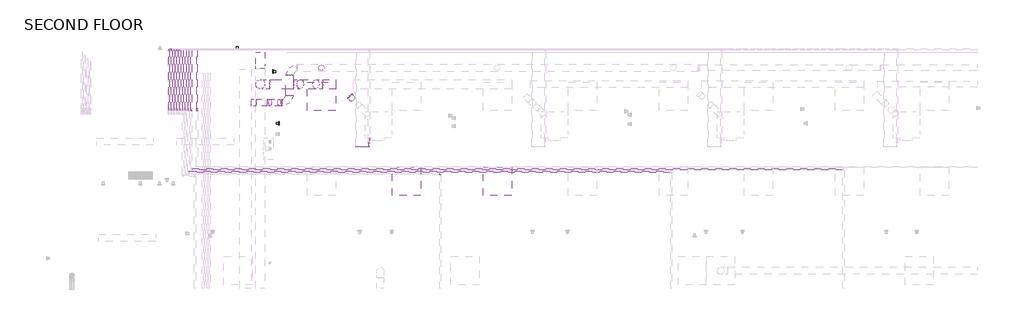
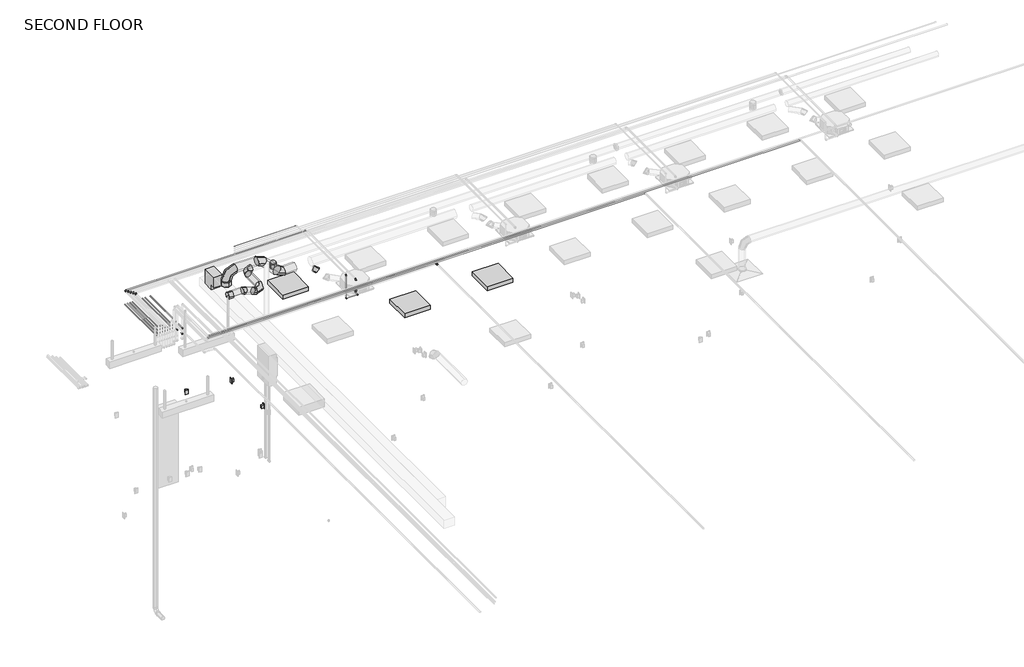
# One storey, part 9 of 12: 20 pipe segments, 14 pipe fittings, 12 duct fittings, 10 duct segments, 3 light fixtures, 2 proxies, 1 electric appliance.
"""IFC4 building model written with IfcOpenShell, lengths in millimetres."""

from ifc_helpers import new_model, si_unit, point, frame, frame_2d, origin, place, context, project, spatial, circle_curve, trimmed, segment, composite_curve, outline, extrude, transform, mapped, element, save
from components import duplex_receptacle_countertop_10251bba, rectangular_elbow_mitered_transition_standard_2c7a3de9, round_elbow_1_d_a253342a, round_elbow_1_d_b37ad80b, round_elbow_1_d_147a1fa0, round_elbow_1_d_ab3aa7ba, round_elbow_1_d_bb13c7cb, round_takeoff_standard_d3b0d0f9, round_takeoff_standard_0d53327c, round_takeoff_standard_bb6ed057, telephone_outlet_data_plain_18c24199, troffer_corner_insert_2x2_3lamp_e67c7f8f, elbow_generic_standard_c06ac706, elbow_generic_standard_a088f956

model = new_model("IFC4")

# Units and contexts
model_context = context("Model", 3, world=origin())
ifc_project = project(units=[si_unit("LENGTHUNIT", "METRE", prefix="MILLI")], contexts=[model_context])

# Site, building, storey
site = spatial("IfcSite", under=ifc_project)
building = spatial("IfcBuilding", under=site)
storey = spatial("IfcBuildingStorey", under=building, Name="SECOND FLOOR", Elevation=34544.0)

# Proxies
placement = place(None, origin())
duplex_receptacle_countertop_shape = duplex_receptacle_countertop_10251bba(model_context)
element("IfcBuildingElementProxy", 1, Name="Duplex Receptacle : Standard", ObjectType="Duplex Receptacle : Standard", at=placement, inside=storey, context=model_context, shape_type="MappedRepresentation", body=[
    mapped(duplex_receptacle_countertop_shape, transform((-6527.0453573, 7674.9695005, 34696.4), x_axis=(1.0, 0.0, 0.0), y_axis=(0.0, 0.0, 1.0), z_axis=(0.0, -1.0, 0.0))),
])
element("IfcBuildingElementProxy", 2, Name="Duplex Receptacle : Standard", ObjectType="Duplex Receptacle : Standard", at=placement, inside=storey, context=model_context, shape_type="MappedRepresentation", body=[
    mapped(duplex_receptacle_countertop_shape, transform((-5755.3204607, 7190.1860032, 35001.2), x_axis=(0.0, -1.0, 0.0), y_axis=(0.0, 0.0, 1.0), z_axis=(-1.0, 0.0, 0.0))),
])

# Duct fittings
rectangular_elbow_mitered_transition_standard_shape = rectangular_elbow_mitered_transition_standard_2c7a3de9(model_context)
element("IfcDuctFitting", 3, ObjectType="Rectangular Elbow - Mitered - Transition : Standard", at=placement, inside=storey, context=model_context, shape_type="MappedRepresentation", body=[
    mapped(rectangular_elbow_mitered_transition_standard_shape, transform((-6029.8204015, 7478.1195005, 37541.2), x_axis=(0.0, 1.0, 0.0), y_axis=(0.0, 0.0, -1.0), z_axis=(-1.0, 0.0, 0.0))),
])
round_elbow_1_d_shape = round_elbow_1_d_a253342a(model_context)
element("IfcDuctFitting", 4, ObjectType="Round Elbow : 1 D", at=placement, inside=storey, context=model_context, shape_type="MappedRepresentation", body=[
    mapped(round_elbow_1_d_shape, transform((-6029.8204015, 6917.6422212, 37998.4), x_axis=(0.0, 0.0, 1.0), y_axis=(1.0, 0.0, 0.0), z_axis=(0.0, 1.0, 0.0))),
])
round_elbow_1_d_2_shape = round_elbow_1_d_b37ad80b(model_context)
element("IfcDuctFitting", 5, ObjectType="Round Elbow : 1 D", at=placement, inside=storey, context=model_context, shape_type="MappedRepresentation", body=[
    mapped(round_elbow_1_d_2_shape, transform((-5401.3079607, 7268.5695005, 37592.0), x_axis=(-1.0, 0.0, 0.0), y_axis=(0.0, -1.0, 0.0), z_axis=(0.0, 0.0, 1.0))),
])
element("IfcDuctFitting", 6, ObjectType="Round Elbow : 1 D", at=placement, inside=storey, context=model_context, shape_type="MappedRepresentation", body=[
    mapped(round_elbow_1_d_2_shape, transform((-5401.3079607, 6523.5557505, 37592.0), x_axis=(1.0, 0.0, 0.0), y_axis=(0.0, 1.0, 0.0), z_axis=(0.0, 0.0, 1.0))),
])
round_elbow_1_d_3_shape = round_elbow_1_d_147a1fa0(model_context)
element("IfcDuctFitting", 7, ObjectType="Round Elbow : 1 D", at=placement, inside=storey, context=model_context, shape_type="MappedRepresentation", body=[
    mapped(round_elbow_1_d_3_shape, transform((-5844.3927822, 6523.5557505, 37693.6), x_axis=(1.0, 0.0, 0.0), y_axis=(0.0, 0.0, -1.0), z_axis=(0.0, 1.0, 0.0))),
])
element("IfcDuctFitting", 8, ObjectType="Round Elbow : 1 D", at=placement, inside=storey, context=model_context, shape_type="MappedRepresentation", body=[
    mapped(round_elbow_1_d_3_shape, transform((-5599.1089295, 6523.5557505, 37592.0), x_axis=(0.9238793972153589, 0.0, -0.3826837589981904), y_axis=(0.3826837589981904, 0.0, 0.9238793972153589), z_axis=(0.0, -1.0, 0.0))),
])
round_elbow_1_d_4_shape = round_elbow_1_d_ab3aa7ba(model_context)
element("IfcDuctFitting", 9, ObjectType="Round Elbow : 1 D", at=placement, inside=storey, context=model_context, shape_type="MappedRepresentation", body=[
    mapped(round_elbow_1_d_4_shape, transform((-4771.0346937, 6917.6422212, 37541.2), x_axis=(0.7071067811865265, 0.0, -0.7071067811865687), y_axis=(0.7071067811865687, 0.0, 0.7071067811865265), z_axis=(0.0, -1.0, 0.0))),
])
element("IfcDuctFitting", 10, ObjectType="Round Elbow : 1 D", at=placement, inside=storey, context=model_context, shape_type="MappedRepresentation", body=[
    mapped(round_elbow_1_d_4_shape, transform((-5228.2346937, 6917.6422212, 37998.4), x_axis=(-0.707106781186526, 0.0, 0.707106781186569), y_axis=(-0.707106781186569, 0.0, -0.707106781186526), z_axis=(0.0, -1.0, 0.0))),
])
round_elbow_1_d_5_shape = round_elbow_1_d_bb13c7cb(model_context)
element("IfcDuctFitting", 11, ObjectType="Round Elbow : 1 D", at=placement, inside=storey, context=model_context, shape_type="MappedRepresentation", body=[
    mapped(round_elbow_1_d_5_shape, transform((-4074.9010189, 6626.3750587, 37541.2), x_axis=(0.7071067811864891, -0.707106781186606, 0.0), y_axis=(0.0, 0.0, -1.0), z_axis=(0.707106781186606, 0.7071067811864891, 0.0))),
])
round_takeoff_standard_shape = round_takeoff_standard_d3b0d0f9(model_context)
element("IfcDuctFitting", 12, ObjectType="Round Takeoff : Standard", at=placement, inside=storey, context=model_context, shape_type="MappedRepresentation", body=[
    mapped(round_takeoff_standard_shape, transform((-6029.8204015, 6917.6422212, 37668.2), x_axis=(0.0, 0.0, 1.0), y_axis=(0.0, 1.0, 0.0), z_axis=(-1.0, 0.0, 0.0))),
])
round_takeoff_standard_2_shape = round_takeoff_standard_0d53327c(model_context)
element("IfcDuctFitting", 13, ObjectType="Round Takeoff : Standard", at=placement, inside=storey, context=model_context, shape_type="MappedRepresentation", body=[
    mapped(round_takeoff_standard_2_shape, transform((-4717.0954607, 7268.5695005, 37515.8), x_axis=(0.0, 0.0, -1.0), y_axis=(-1.0, 0.0, 0.0), z_axis=(0.0, 1.0, 0.0))),
])
round_takeoff_standard_3_shape = round_takeoff_standard_bb6ed057(model_context)
element("IfcDuctFitting", 14, ObjectType="Round Takeoff : Standard", at=placement, inside=storey, context=model_context, shape_type="MappedRepresentation", body=[
    mapped(round_takeoff_standard_3_shape, transform((-6220.3126806, 6523.5557505, 37693.6), x_axis=(1.0, 0.0, 0.0), y_axis=(0.0, -1.0, 0.0), z_axis=(0.0, 0.0, -1.0))),
])

# Duct segments
element("IfcDuctSegment", 15, ObjectType="Taps / Short Radius", at=placement, inside=storey, context=model_context, shape_type="SweptSolid", body=[
    extrude(outline(composite_curve([segment(trimmed(circle_curve(frame_2d((37592.0, -5401.3079607)), 76.2), [point((37592.0, -5477.5079607))], [point((37515.8, -5401.3079607))], False, "CARTESIAN"), True, "CONTINUOUS"), segment(trimmed(circle_curve(frame_2d((37592.0, -5401.3079607)), 76.2), [point((37515.8, -5401.3079607))], [point((37592.0, -5325.1079607))], False, "CARTESIAN"), True, "CONTINUOUS"), segment(trimmed(circle_curve(frame_2d((37592.0, -5401.3079607)), 76.2), [point((37592.0, -5325.1079607))], [point((37668.2, -5401.3079607))], False, "CARTESIAN"), True, "CONTINUOUS"), segment(trimmed(circle_curve(frame_2d((37592.0, -5401.3079607)), 76.2), [point((37668.2, -5401.3079607))], [point((37592.0, -5477.5079607))], False, "CARTESIAN"), True, "CONTINUOUS")], self_intersect=False)), frame((0.0, 6675.9557505, 0.0), z_axis=(0.0, 1.0, 0.0), x_axis=(0.0, 0.0, 1.0)), (0.0, 0.0, 1.0), 440.21375),
])
element("IfcDuctSegment", 16, ObjectType="Taps / Short Radius", at=placement, inside=storey, context=model_context, shape_type="SweptSolid", body=[
    extrude(outline(composite_curve([segment(trimmed(circle_curve(frame_2d((0.0, 63.5)), 63.5), [point((-63.5, 63.5))], [point((0.0, 127.0))], False, "CARTESIAN"), True, "CONTINUOUS"), segment(trimmed(circle_curve(frame_2d((0.0, 63.5)), 63.5), [point((0.0, 127.0))], [point((63.5, 63.5))], False, "CARTESIAN"), True, "CONTINUOUS"), segment(trimmed(circle_curve(frame_2d((0.0, 63.5)), 63.5), [point((63.5, 63.5))], [point((0.0, 0.0))], False, "CARTESIAN"), True, "CONTINUOUS"), segment(trimmed(circle_curve(frame_2d((0.0, 63.5)), 63.5), [point((0.0, 0.0))], [point((-63.5, 63.5))], False, "CARTESIAN"), True, "CONTINUOUS")], self_intersect=False)), frame((-4717.0954607, 7205.0695005, 37388.8), z_axis=(0.0, -3.069544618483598e-12, 1.0), x_axis=(1.0, 0.0, 0.0)), (0.0, 0.0, 1.0), 25.4),
])
element("IfcDuctSegment", 17, ObjectType="Taps / Short Radius", at=placement, inside=storey, context=model_context, shape_type="SweptSolid", body=[
    extrude(outline(composite_curve([segment(trimmed(circle_curve(frame_2d((6523.5557505, 37592.0)), 76.2), [point((6447.3557505, 37592.0))], [point((6523.5557505, 37668.2))], False, "CARTESIAN"), True, "CONTINUOUS"), segment(trimmed(circle_curve(frame_2d((6523.5557505, 37592.0)), 76.2), [point((6523.5557505, 37668.2))], [point((6599.7557505, 37592.0))], False, "CARTESIAN"), True, "CONTINUOUS"), segment(trimmed(circle_curve(frame_2d((6523.5557505, 37592.0)), 76.2), [point((6599.7557505, 37592.0))], [point((6523.5557505, 37515.8))], False, "CARTESIAN"), True, "CONTINUOUS"), segment(trimmed(circle_curve(frame_2d((6523.5557505, 37592.0)), 76.2), [point((6523.5557505, 37515.8))], [point((6447.3557505, 37592.0))], False, "CARTESIAN"), True, "CONTINUOUS")], self_intersect=False)), frame((-5568.7946567, 0.0, 0.0), z_axis=(1.0, 0.0, 0.0), x_axis=(0.0, 1.0, 0.0)), (0.0, 0.0, 1.0), 15.086696),
])
element("IfcDuctSegment", 18, ObjectType="Taps / Short Radius", at=placement, inside=storey, context=model_context, shape_type="SweptSolid", body=[
    extrude(outline(composite_curve([segment(trimmed(circle_curve(frame_2d((6523.5557505, 37693.6)), 76.2), [point((6447.3557505, 37693.6))], [point((6523.5557505, 37769.8))], False, "CARTESIAN"), True, "CONTINUOUS"), segment(trimmed(circle_curve(frame_2d((6523.5557505, 37693.6)), 76.2), [point((6523.5557505, 37769.8))], [point((6599.7557505, 37693.6))], False, "CARTESIAN"), True, "CONTINUOUS"), segment(trimmed(circle_curve(frame_2d((6523.5557505, 37693.6)), 76.2), [point((6599.7557505, 37693.6))], [point((6523.5557505, 37617.4))], False, "CARTESIAN"), True, "CONTINUOUS"), segment(trimmed(circle_curve(frame_2d((6523.5557505, 37693.6)), 76.2), [point((6523.5557505, 37617.4))], [point((6447.3557505, 37693.6))], False, "CARTESIAN"), True, "CONTINUOUS")], self_intersect=False)), frame((-6118.7126806, 0.0, 0.0), z_axis=(1.0, 0.0, 0.0), x_axis=(0.0, 1.0, 0.0)), (0.0, 0.0, 1.0), 244.0056256),
])
element("IfcDuctSegment", 19, ObjectType="Taps / Short Radius", at=placement, inside=storey, context=model_context, shape_type="SweptSolid", body=[
    extrude(outline(composite_curve([segment(trimmed(circle_curve(frame_2d((0.0, -76.2)), 76.2), [point((0.0, -152.4))], [point((-76.2, -76.2))], False, "CARTESIAN"), True, "CONTINUOUS"), segment(trimmed(circle_curve(frame_2d((0.0, -76.2)), 76.2), [point((-76.2, -76.2))], [point((0.0, 0.0))], False, "CARTESIAN"), True, "CONTINUOUS"), segment(trimmed(circle_curve(frame_2d((0.0, -76.2)), 76.2), [point((0.0, 0.0))], [point((76.1999999, -76.2))], False, "CARTESIAN"), True, "CONTINUOUS"), segment(trimmed(circle_curve(frame_2d((0.0, -76.2)), 76.2), [point((76.1999999, -76.2))], [point((0.0, -152.4))], False, "CARTESIAN"), True, "CONTINUOUS")], self_intersect=False)), frame((-5627.1156616, 6599.7557505, 37603.6007799), z_axis=(-0.9238793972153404, 0.0, 0.3826837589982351), x_axis=(0.3826837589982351, 0.0, 0.9238793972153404)), (0.0, 0.0, 1.0), 204.8648223),
])
element("IfcDuctSegment", 20, ObjectType="Taps / Short Radius", at=placement, inside=storey, context=model_context, shape_type="SweptSolid", body=[
    extrude(outline(composite_curve([segment(trimmed(circle_curve(frame_2d((6917.6422212, 37541.2)), 101.6), [point((6816.0422212, 37541.2))], [point((6917.6422212, 37642.8))], False, "CARTESIAN"), True, "CONTINUOUS"), segment(trimmed(circle_curve(frame_2d((6917.6422212, 37541.2)), 101.6), [point((6917.6422212, 37642.8))], [point((7019.2422212, 37541.2))], False, "CARTESIAN"), True, "CONTINUOUS"), segment(trimmed(circle_curve(frame_2d((6917.6422212, 37541.2)), 101.6), [point((7019.2422212, 37541.2))], [point((6917.6422212, 37439.6))], False, "CARTESIAN"), True, "CONTINUOUS"), segment(trimmed(circle_curve(frame_2d((6917.6422212, 37541.2)), 101.6), [point((6917.6422212, 37439.6))], [point((6816.0422212, 37541.2))], False, "CARTESIAN"), True, "CONTINUOUS")], self_intersect=False)), frame((-4686.8664978, 0.0, 0.0), z_axis=(1.0, 0.0, 0.0), x_axis=(0.0, 1.0, 0.0)), (0.0, 0.0, 1.0), 275.7970359),
])
element("IfcDuctSegment", 21, ObjectType="Taps / Short Radius", at=placement, inside=storey, context=model_context, shape_type="SweptSolid", body=[
    extrude(outline(composite_curve([segment(trimmed(circle_curve(frame_2d((0.0, -101.6)), 101.6), [point((0.0, 0.0))], [point((101.6, -101.6))], False, "CARTESIAN"), True, "CONTINUOUS"), segment(trimmed(circle_curve(frame_2d((0.0, -101.6)), 101.6), [point((101.6, -101.6))], [point((0.0, -203.2))], False, "CARTESIAN"), True, "CONTINUOUS"), segment(trimmed(circle_curve(frame_2d((0.0, -101.6)), 101.6), [point((0.0, -203.2))], [point((-101.6, -101.6))], False, "CARTESIAN"), True, "CONTINUOUS"), segment(trimmed(circle_curve(frame_2d((0.0, -101.6)), 101.6), [point((-101.6, -101.6))], [point((0.0, 0.0))], False, "CARTESIAN"), True, "CONTINUOUS")], self_intersect=False)), frame((-4830.5505958, 7019.2422212, 37600.7159021), z_axis=(-0.7071067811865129, 0.0, 0.7071067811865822), x_axis=(0.7071067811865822, 0.0, 0.7071067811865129)), (0.0, 0.0, 1.0), 478.242049),
])
element("IfcDuctSegment", 22, ObjectType="Taps / Short Radius", at=placement, inside=storey, context=model_context, shape_type="SweptSolid", body=[
    extrude(outline(composite_curve([segment(trimmed(circle_curve(frame_2d((0.0, -63.5)), 63.5), [point((-63.5, -63.5))], [point((0.0, 0.0))], False, "CARTESIAN"), True, "CONTINUOUS"), segment(trimmed(circle_curve(frame_2d((0.0, -63.5)), 63.5), [point((0.0, 0.0))], [point((63.5, -63.5))], False, "CARTESIAN"), True, "CONTINUOUS"), segment(trimmed(circle_curve(frame_2d((0.0, -63.5)), 63.5), [point((63.5, -63.5))], [point((0.0, -127.0))], False, "CARTESIAN"), True, "CONTINUOUS"), segment(trimmed(circle_curve(frame_2d((0.0, -63.5)), 63.5), [point((0.0, -127.0))], [point((-63.5, -63.5))], False, "CARTESIAN"), True, "CONTINUOUS")], self_intersect=False)), frame((-4103.4147276, 6654.8887674, 37477.7), z_axis=(-0.7071067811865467, 0.7071067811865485, 0.0), x_axis=(0.7071067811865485, 0.7071067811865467, 0.0)), (0.0, 0.0, 1.0), 20.7213021),
])
element("IfcDuctSegment", 23, ObjectType="Taps / Short Radius", at=placement, inside=storey, context=model_context, shape_type="SweptSolid", body=[
    extrude(outline(composite_curve([segment(trimmed(circle_curve(frame_2d((6917.6422212, 37998.4)), 101.6), [point((6816.0422212, 37998.4))], [point((6917.6422212, 38100.0))], False, "CARTESIAN"), True, "CONTINUOUS"), segment(trimmed(circle_curve(frame_2d((6917.6422212, 37998.4)), 101.6), [point((6917.6422212, 38100.0))], [point((7019.2422212, 37998.4))], False, "CARTESIAN"), True, "CONTINUOUS"), segment(trimmed(circle_curve(frame_2d((6917.6422212, 37998.4)), 101.6), [point((7019.2422212, 37998.4))], [point((6917.6422212, 37896.8))], False, "CARTESIAN"), True, "CONTINUOUS"), segment(trimmed(circle_curve(frame_2d((6917.6422212, 37998.4)), 101.6), [point((6917.6422212, 37896.8))], [point((6816.0422212, 37998.4))], False, "CARTESIAN"), True, "CONTINUOUS")], self_intersect=False)), frame((-5826.6204015, 0.0, 0.0), z_axis=(1.0, 0.0, 0.0), x_axis=(0.0, 1.0, 0.0)), (0.0, 0.0, 1.0), 514.2175119),
])
element("IfcDuctSegment", 24, ObjectType="Taps / Short Radius", at=placement, inside=storey, context=model_context, shape_type="SweptSolid", body=[
    extrude(outline(composite_curve([segment(trimmed(circle_curve(frame_2d((0.0, 101.6)), 101.6), [point((0.0, 0.0))], [point((-101.6, 101.6))], False, "CARTESIAN"), True, "CONTINUOUS"), segment(trimmed(circle_curve(frame_2d((0.0, 101.6)), 101.6), [point((-101.6, 101.6))], [point((0.0, 203.2))], False, "CARTESIAN"), True, "CONTINUOUS"), segment(trimmed(circle_curve(frame_2d((0.0, 101.6)), 101.6), [point((0.0, 203.2))], [point((101.6, 101.6))], False, "CARTESIAN"), True, "CONTINUOUS"), segment(trimmed(circle_curve(frame_2d((0.0, 101.6)), 101.6), [point((101.6, 101.6))], [point((0.0, 0.0))], False, "CARTESIAN"), True, "CONTINUOUS")], self_intersect=False)), frame((-6029.8204015, 6816.0422212, 37769.8), z_axis=(0.0, -1.0658141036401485e-12, 1.0), x_axis=(1.0, 0.0, 0.0)), (0.0, 0.0, 1.0), 25.4),
])

# Electric appliance
telephone_outlet_data_plain_shape = telephone_outlet_data_plain_18c24199(model_context)
element("IfcElectricAppliance", 25, ObjectType="Telephone Outlet - Data : Plain", at=placement, inside=storey, context=model_context, shape_type="MappedRepresentation", body=[
    mapped(telephone_outlet_data_plain_shape, transform((-5631.4954607, 6954.0621081, 34143.95), x_axis=(0.0, 1.0, 0.0), y_axis=(0.0, 0.0, 1.0), z_axis=(1.0, 0.0, 0.0))),
])

# Light fixtures
troffer_corner_insert_2x2_3lamp_shape = troffer_corner_insert_2x2_3lamp_e67c7f8f(model_context)
element("IfcLightFixture", 26, ObjectType="Troffer Corner Insert : 2x2 3Lamp", at=placement, inside=storey, context=model_context, shape_type="MappedRepresentation", body=[
    mapped(troffer_corner_insert_2x2_3lamp_shape, transform((-4717.0954607, 6658.9695005, 34848.8), x_axis=(1.0, 0.0, 0.0), y_axis=(0.0, 1.0, 0.0), z_axis=(0.0, 0.0, 1.0))),
])
element("IfcLightFixture", 27, ObjectType="Troffer Corner Insert : 2x2 3Lamp", at=placement, inside=storey, context=model_context, shape_type="MappedRepresentation", body=[
    mapped(troffer_corner_insert_2x2_3lamp_shape, transform((-2888.2954607, 4830.1695005, 34848.8), x_axis=(1.0, 0.0, 0.0), y_axis=(0.0, 1.0, 0.0), z_axis=(0.0, 0.0, 1.0))),
])
element("IfcLightFixture", 28, ObjectType="Troffer Corner Insert : 2x2 3Lamp", at=placement, inside=storey, context=model_context, shape_type="MappedRepresentation", body=[
    mapped(troffer_corner_insert_2x2_3lamp_shape, transform((-935.6704607, 4830.1695005, 34848.8), x_axis=(1.0, 0.0, 0.0), y_axis=(0.0, 1.0, 0.0), z_axis=(0.0, 0.0, 1.0))),
])

# Pipe fittings
elbow_generic_standard_shape = elbow_generic_standard_c06ac706(model_context)
element("IfcPipeFitting", 29, ObjectType="Elbow - Generic : Standard", at=placement, inside=storey, context=model_context, shape_type="MappedRepresentation", body=[
    mapped(elbow_generic_standard_shape, transform((-7991.0790543, 7663.8570005, 37744.4), x_axis=(-1.0, 0.0, 0.0), y_axis=(0.0, -1.0, 0.0), z_axis=(0.0, 0.0, 1.0))),
])
element("IfcPipeFitting", 30, ObjectType="Elbow - Generic : Standard", at=placement, inside=storey, context=model_context, shape_type="MappedRepresentation", body=[
    mapped(elbow_generic_standard_shape, transform((-3690.7767107, 5656.267336, 37744.4), x_axis=(0.0, 0.0, 1.0), y_axis=(0.0, 1.0, 0.0), z_axis=(-1.0, 0.0, 0.0))),
])
element("IfcPipeFitting", 31, ObjectType="Elbow - Generic : Standard", at=placement, inside=storey, context=model_context, shape_type="MappedRepresentation", body=[
    mapped(elbow_generic_standard_shape, transform((-7931.0790543, 7663.8570005, 37706.3), x_axis=(-1.0, 0.0, 0.0), y_axis=(0.0, -1.0, 0.0), z_axis=(0.0, 0.0, 1.0))),
])
element("IfcPipeFitting", 32, ObjectType="Elbow - Generic : Standard", at=placement, inside=storey, context=model_context, shape_type="MappedRepresentation", body=[
    mapped(elbow_generic_standard_shape, transform((-7871.0790543, 7663.8570005, 37668.2), x_axis=(-1.0, 0.0, 0.0), y_axis=(0.0, -1.0, 0.0), z_axis=(0.0, 0.0, 1.0))),
])
element("IfcPipeFitting", 33, ObjectType="Elbow - Generic : Standard", at=placement, inside=storey, context=model_context, shape_type="MappedRepresentation", body=[
    mapped(elbow_generic_standard_shape, transform((-7811.0790543, 7663.8570005, 37630.1), x_axis=(-1.0, 0.0, 0.0), y_axis=(0.0, -1.0, 0.0), z_axis=(0.0, 0.0, 1.0))),
])
element("IfcPipeFitting", 34, ObjectType="Elbow - Generic : Standard", at=placement, inside=storey, context=model_context, shape_type="MappedRepresentation", body=[
    mapped(elbow_generic_standard_shape, transform((-7751.0790543, 7663.8570005, 37592.0), x_axis=(-1.0, 0.0, 0.0), y_axis=(0.0, -1.0, 0.0), z_axis=(0.0, 0.0, 1.0))),
])
element("IfcPipeFitting", 35, ObjectType="Elbow - Generic : Standard", at=placement, inside=storey, context=model_context, shape_type="MappedRepresentation", body=[
    mapped(elbow_generic_standard_shape, transform((-2162.9667107, 4983.2701311, 37998.4), x_axis=(0.0, 1.0, 0.0), y_axis=(-1.0, 0.0, 0.0), z_axis=(0.0, 0.0, 1.0))),
])
element("IfcPipeFitting", 36, ObjectType="Elbow - Generic : Standard", at=placement, inside=storey, context=model_context, shape_type="MappedRepresentation", body=[
    mapped(elbow_generic_standard_shape, transform((-3690.7767107, 5656.267336, 37437.2187602), x_axis=(0.0, 0.0, -1.0), y_axis=(0.0, 1.0, 0.0), z_axis=(1.0, 0.0, 0.0))),
])
elbow_generic_standard_2_shape = elbow_generic_standard_a088f956(model_context)
element("IfcPipeFitting", 37, ObjectType="Elbow - Generic : Standard", at=placement, inside=storey, context=model_context, shape_type="MappedRepresentation", body=[
    mapped(elbow_generic_standard_2_shape, transform((-7511.0790543, 6350.1076209, 37398.3125), x_axis=(0.0, 0.0, 1.0), y_axis=(0.0, 1.0, 0.0), z_axis=(-1.0, 0.0, 0.0))),
])
element("IfcPipeFitting", 38, ObjectType="Elbow - Generic : Standard", at=placement, inside=storey, context=model_context, shape_type="MappedRepresentation", body=[
    mapped(elbow_generic_standard_2_shape, transform((-7391.0790543, 6350.1076209, 37245.9125), x_axis=(0.0, -1.0, 0.0), y_axis=(0.0, 0.0, 1.0), z_axis=(-1.0, 0.0, 0.0))),
])
element("IfcPipeFitting", 39, ObjectType="Elbow - Generic : Standard", at=placement, inside=storey, context=model_context, shape_type="MappedRepresentation", body=[
    mapped(elbow_generic_standard_2_shape, transform((-7391.0790543, 6350.1076209, 37398.3125), x_axis=(0.0, 0.0, 1.0), y_axis=(0.0, 1.0, 0.0), z_axis=(-1.0, 0.0, 0.0))),
])
element("IfcPipeFitting", 40, ObjectType="Elbow - Generic : Standard", at=placement, inside=storey, context=model_context, shape_type="MappedRepresentation", body=[
    mapped(elbow_generic_standard_2_shape, transform((-3693.9517107, 5568.3570005, 37407.85), x_axis=(1.0, 0.0, 0.0), y_axis=(0.0, 0.9999999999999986, 5.375459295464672e-08), z_axis=(0.0, -5.375459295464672e-08, 0.9999999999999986))),
])
element("IfcPipeFitting", 41, ObjectType="Elbow - Generic : Standard", at=placement, inside=storey, context=model_context, shape_type="MappedRepresentation", body=[
    mapped(elbow_generic_standard_2_shape, transform((-3973.3517107, 5568.3570005, 37407.85), x_axis=(-1.0, 0.0, 0.0), y_axis=(0.0, 0.0, 1.0), z_axis=(0.0, 1.0, 0.0))),
])
element("IfcPipeFitting", 42, ObjectType="Elbow - Generic : Standard", at=placement, inside=storey, context=model_context, shape_type="MappedRepresentation", body=[
    mapped(elbow_generic_standard_2_shape, transform((-3973.3517107, 5568.3570005, 37998.4), x_axis=(0.0, 0.0, 1.0), y_axis=(0.0, 1.0, 0.0), z_axis=(-1.0, 0.0, 0.0))),
])

# Pipe segments
element("IfcPipeSegment", 43, ObjectType="Copper Tubing", at=placement, inside=storey, context=model_context, shape_type="SweptSolid", body=[
    extrude(outline(composite_curve([segment(trimmed(circle_curve(frame_2d((7663.8570005, 37744.4)), 14.2875), [point((7649.5695005, 37744.4))], [point((7663.8570005, 37758.6875))], False, "CARTESIAN"), True, "CONTINUOUS"), segment(trimmed(circle_curve(frame_2d((7663.8570005, 37744.4)), 14.2875), [point((7663.8570005, 37758.6875))], [point((7678.1445005, 37744.4))], False, "CARTESIAN"), True, "CONTINUOUS"), segment(trimmed(circle_curve(frame_2d((7663.8570005, 37744.4)), 14.2875), [point((7678.1445005, 37744.4))], [point((7663.8570005, 37730.1125))], False, "CARTESIAN"), True, "CONTINUOUS"), segment(trimmed(circle_curve(frame_2d((7663.8570005, 37744.4)), 14.2875), [point((7663.8570005, 37730.1125))], [point((7649.5695005, 37744.4))], False, "CARTESIAN"), True, "CONTINUOUS")], self_intersect=False)), frame((-7970.4415543, 0.0, 0.0), z_axis=(1.0, 0.0, 0.0), x_axis=(0.0, 1.0, 0.0)), (0.0, 0.0, 1.0), 4259.0273436),
])
element("IfcPipeSegment", 44, ObjectType="Copper Tubing", at=placement, inside=storey, context=model_context, shape_type="SweptSolid", body=[
    extrude(outline(composite_curve([segment(trimmed(circle_curve(frame_2d((5034.0701311, 37998.4)), 14.2875), [point((5019.7826311, 37998.4))], [point((5034.0701311, 38012.6875))], False, "CARTESIAN"), True, "CONTINUOUS"), segment(trimmed(circle_curve(frame_2d((5034.0701311, 37998.4)), 14.2875), [point((5034.0701311, 38012.6875))], [point((5048.3576311, 37998.4))], False, "CARTESIAN"), True, "CONTINUOUS"), segment(trimmed(circle_curve(frame_2d((5034.0701311, 37998.4)), 14.2875), [point((5048.3576311, 37998.4))], [point((5034.0701311, 37984.1125))], False, "CARTESIAN"), True, "CONTINUOUS"), segment(trimmed(circle_curve(frame_2d((5034.0701311, 37998.4)), 14.2875), [point((5034.0701311, 37984.1125))], [point((5019.7826311, 37998.4))], False, "CARTESIAN"), True, "CONTINUOUS")], self_intersect=False)), frame((-7550.4415543, 0.0, 0.0), z_axis=(1.0, 0.0, 0.0), x_axis=(0.0, 1.0, 0.0)), (0.0, 0.0, 1.0), 10327.4573436),
])
element("IfcPipeSegment", 45, ObjectType="Copper Tubing", at=placement, inside=storey, context=model_context, shape_type="SweptSolid", body=[
    extrude(outline(composite_curve([segment(trimmed(circle_curve(frame_2d((5084.8701311, 37998.4)), 14.2875), [point((5070.5826311, 37998.4))], [point((5084.8701311, 38012.6875))], False, "CARTESIAN"), True, "CONTINUOUS"), segment(trimmed(circle_curve(frame_2d((5084.8701311, 37998.4)), 14.2875), [point((5084.8701311, 38012.6875))], [point((5099.1576311, 37998.4))], False, "CARTESIAN"), True, "CONTINUOUS"), segment(trimmed(circle_curve(frame_2d((5084.8701311, 37998.4)), 14.2875), [point((5099.1576311, 37998.4))], [point((5084.8701311, 37984.1125))], False, "CARTESIAN"), True, "CONTINUOUS"), segment(trimmed(circle_curve(frame_2d((5084.8701311, 37998.4)), 14.2875), [point((5084.8701311, 37984.1125))], [point((5070.5826311, 37998.4))], False, "CARTESIAN"), True, "CONTINUOUS")], self_intersect=False)), frame((-7490.4415543, 0.0, 0.0), z_axis=(1.0, 0.0, 0.0), x_axis=(0.0, 1.0, 0.0)), (0.0, 0.0, 1.0), 13970.3010936),
])
element("IfcPipeSegment", 46, ObjectType="Copper Tubing", at=placement, inside=storey, context=model_context, shape_type="SweptSolid", body=[
    extrude(outline(composite_curve([segment(trimmed(circle_curve(frame_2d((37398.3125, -7991.0790543)), 7.9375), [point((37398.3125, -7983.1415543))], [point((37406.25, -7991.0790543))], False, "CARTESIAN"), True, "CONTINUOUS"), segment(trimmed(circle_curve(frame_2d((37398.3125, -7991.0790543)), 7.9375), [point((37406.25, -7991.0790543))], [point((37398.3125, -7999.0165543))], False, "CARTESIAN"), True, "CONTINUOUS"), segment(trimmed(circle_curve(frame_2d((37398.3125, -7991.0790543)), 7.9375), [point((37398.3125, -7999.0165543))], [point((37390.375, -7991.0790543))], False, "CARTESIAN"), True, "CONTINUOUS"), segment(trimmed(circle_curve(frame_2d((37398.3125, -7991.0790543)), 7.9375), [point((37390.375, -7991.0790543))], [point((37398.3125, -7983.1415543))], False, "CARTESIAN"), True, "CONTINUOUS")], self_intersect=False)), frame((0.0, 6364.3951209, 0.0), z_axis=(0.0, 1.0, 0.0), x_axis=(0.0, 0.0, 1.0)), (0.0, 0.0, 1.0), 1306.5125),
])
element("IfcPipeSegment", 47, ObjectType="Copper Tubing", at=placement, inside=storey, context=model_context, shape_type="SweptSolid", body=[
    extrude(outline(composite_curve([segment(trimmed(circle_curve(frame_2d((37398.3125, -7931.0790543)), 7.9375), [point((37398.3125, -7923.1415543))], [point((37406.25, -7931.0790543))], False, "CARTESIAN"), True, "CONTINUOUS"), segment(trimmed(circle_curve(frame_2d((37398.3125, -7931.0790543)), 7.9375), [point((37406.25, -7931.0790543))], [point((37398.3125, -7939.0165543))], False, "CARTESIAN"), True, "CONTINUOUS"), segment(trimmed(circle_curve(frame_2d((37398.3125, -7931.0790543)), 7.9375), [point((37398.3125, -7939.0165543))], [point((37390.375, -7931.0790543))], False, "CARTESIAN"), True, "CONTINUOUS"), segment(trimmed(circle_curve(frame_2d((37398.3125, -7931.0790543)), 7.9375), [point((37390.375, -7931.0790543))], [point((37398.3125, -7923.1415543))], False, "CARTESIAN"), True, "CONTINUOUS")], self_intersect=False)), frame((0.0, 6364.3951209, 0.0), z_axis=(0.0, 1.0, 0.0), x_axis=(0.0, 0.0, 1.0)), (0.0, 0.0, 1.0), 1306.5125),
])
element("IfcPipeSegment", 48, ObjectType="Copper Tubing", at=placement, inside=storey, context=model_context, shape_type="SweptSolid", body=[
    extrude(outline(composite_curve([segment(trimmed(circle_curve(frame_2d((37398.3125, -7871.0790543)), 7.9375), [point((37398.3125, -7863.1415543))], [point((37406.25, -7871.0790543))], False, "CARTESIAN"), True, "CONTINUOUS"), segment(trimmed(circle_curve(frame_2d((37398.3125, -7871.0790543)), 7.9375), [point((37406.25, -7871.0790543))], [point((37398.3125, -7879.0165543))], False, "CARTESIAN"), True, "CONTINUOUS"), segment(trimmed(circle_curve(frame_2d((37398.3125, -7871.0790543)), 7.9375), [point((37398.3125, -7879.0165543))], [point((37390.375, -7871.0790543))], False, "CARTESIAN"), True, "CONTINUOUS"), segment(trimmed(circle_curve(frame_2d((37398.3125, -7871.0790543)), 7.9375), [point((37390.375, -7871.0790543))], [point((37398.3125, -7863.1415543))], False, "CARTESIAN"), True, "CONTINUOUS")], self_intersect=False)), frame((0.0, 6364.3951209, 0.0), z_axis=(0.0, 1.0, 0.0), x_axis=(0.0, 0.0, 1.0)), (0.0, 0.0, 1.0), 1306.5125),
])
element("IfcPipeSegment", 49, ObjectType="Copper Tubing", at=placement, inside=storey, context=model_context, shape_type="SweptSolid", body=[
    extrude(outline(composite_curve([segment(trimmed(circle_curve(frame_2d((37398.3125, -7811.0790543)), 7.9375), [point((37398.3125, -7803.1415543))], [point((37406.25, -7811.0790543))], False, "CARTESIAN"), True, "CONTINUOUS"), segment(trimmed(circle_curve(frame_2d((37398.3125, -7811.0790543)), 7.9375), [point((37406.25, -7811.0790543))], [point((37398.3125, -7819.0165543))], False, "CARTESIAN"), True, "CONTINUOUS"), segment(trimmed(circle_curve(frame_2d((37398.3125, -7811.0790543)), 7.9375), [point((37398.3125, -7819.0165543))], [point((37390.375, -7811.0790543))], False, "CARTESIAN"), True, "CONTINUOUS"), segment(trimmed(circle_curve(frame_2d((37398.3125, -7811.0790543)), 7.9375), [point((37390.375, -7811.0790543))], [point((37398.3125, -7803.1415543))], False, "CARTESIAN"), True, "CONTINUOUS")], self_intersect=False)), frame((0.0, 6364.3951209, 0.0), z_axis=(0.0, 1.0, 0.0), x_axis=(0.0, 0.0, 1.0)), (0.0, 0.0, 1.0), 1306.5125),
])
element("IfcPipeSegment", 50, ObjectType="Copper Tubing", at=placement, inside=storey, context=model_context, shape_type="SweptSolid", body=[
    extrude(outline(composite_curve([segment(trimmed(circle_curve(frame_2d((37398.3125, -7751.0790543)), 7.9375), [point((37398.3125, -7743.1415543))], [point((37406.25, -7751.0790543))], False, "CARTESIAN"), True, "CONTINUOUS"), segment(trimmed(circle_curve(frame_2d((37398.3125, -7751.0790543)), 7.9375), [point((37406.25, -7751.0790543))], [point((37398.3125, -7759.0165543))], False, "CARTESIAN"), True, "CONTINUOUS"), segment(trimmed(circle_curve(frame_2d((37398.3125, -7751.0790543)), 7.9375), [point((37398.3125, -7759.0165543))], [point((37390.375, -7751.0790543))], False, "CARTESIAN"), True, "CONTINUOUS"), segment(trimmed(circle_curve(frame_2d((37398.3125, -7751.0790543)), 7.9375), [point((37390.375, -7751.0790543))], [point((37398.3125, -7743.1415543))], False, "CARTESIAN"), True, "CONTINUOUS")], self_intersect=False)), frame((0.0, 6364.3951209, 0.0), z_axis=(0.0, 1.0, 0.0), x_axis=(0.0, 0.0, 1.0)), (0.0, 0.0, 1.0), 1306.5125),
])
element("IfcPipeSegment", 51, ObjectType="Copper Tubing", at=placement, inside=storey, context=model_context, shape_type="SweptSolid", body=[
    extrude(outline(composite_curve([segment(trimmed(circle_curve(frame_2d((37398.3125, -7691.0790543)), 7.9375), [point((37398.3125, -7683.1415543))], [point((37406.25, -7691.0790543))], False, "CARTESIAN"), True, "CONTINUOUS"), segment(trimmed(circle_curve(frame_2d((37398.3125, -7691.0790543)), 7.9375), [point((37406.25, -7691.0790543))], [point((37398.3125, -7699.0165543))], False, "CARTESIAN"), True, "CONTINUOUS"), segment(trimmed(circle_curve(frame_2d((37398.3125, -7691.0790543)), 7.9375), [point((37398.3125, -7699.0165543))], [point((37390.375, -7691.0790543))], False, "CARTESIAN"), True, "CONTINUOUS"), segment(trimmed(circle_curve(frame_2d((37398.3125, -7691.0790543)), 7.9375), [point((37390.375, -7691.0790543))], [point((37398.3125, -7683.1415543))], False, "CARTESIAN"), True, "CONTINUOUS")], self_intersect=False)), frame((0.0, 6364.3951209, 0.0), z_axis=(0.0, 1.0, 0.0), x_axis=(0.0, 0.0, 1.0)), (0.0, 0.0, 1.0), 1306.5125),
])
element("IfcPipeSegment", 52, ObjectType="Copper Tubing", at=placement, inside=storey, context=model_context, shape_type="SweptSolid", body=[
    extrude(outline(composite_curve([segment(trimmed(circle_curve(frame_2d((37398.3125, -7631.0790543)), 7.9375), [point((37398.3125, -7623.1415543))], [point((37406.25, -7631.0790543))], False, "CARTESIAN"), True, "CONTINUOUS"), segment(trimmed(circle_curve(frame_2d((37398.3125, -7631.0790543)), 7.9375), [point((37406.25, -7631.0790543))], [point((37398.3125, -7639.0165543))], False, "CARTESIAN"), True, "CONTINUOUS"), segment(trimmed(circle_curve(frame_2d((37398.3125, -7631.0790543)), 7.9375), [point((37398.3125, -7639.0165543))], [point((37390.375, -7631.0790543))], False, "CARTESIAN"), True, "CONTINUOUS"), segment(trimmed(circle_curve(frame_2d((37398.3125, -7631.0790543)), 7.9375), [point((37390.375, -7631.0790543))], [point((37398.3125, -7623.1415543))], False, "CARTESIAN"), True, "CONTINUOUS")], self_intersect=False)), frame((0.0, 6364.3951209, 0.0), z_axis=(0.0, 1.0, 0.0), x_axis=(0.0, 0.0, 1.0)), (0.0, 0.0, 1.0), 1306.5125),
])
element("IfcPipeSegment", 53, ObjectType="Copper Tubing", at=placement, inside=storey, context=model_context, shape_type="SweptSolid", body=[
    extrude(outline(composite_curve([segment(trimmed(circle_curve(frame_2d((37398.3125, -7571.0790543)), 7.9375), [point((37398.3125, -7563.1415543))], [point((37406.25, -7571.0790543))], False, "CARTESIAN"), True, "CONTINUOUS"), segment(trimmed(circle_curve(frame_2d((37398.3125, -7571.0790543)), 7.9375), [point((37406.25, -7571.0790543))], [point((37398.3125, -7579.0165543))], False, "CARTESIAN"), True, "CONTINUOUS"), segment(trimmed(circle_curve(frame_2d((37398.3125, -7571.0790543)), 7.9375), [point((37398.3125, -7579.0165543))], [point((37390.375, -7571.0790543))], False, "CARTESIAN"), True, "CONTINUOUS"), segment(trimmed(circle_curve(frame_2d((37398.3125, -7571.0790543)), 7.9375), [point((37390.375, -7571.0790543))], [point((37398.3125, -7563.1415543))], False, "CARTESIAN"), True, "CONTINUOUS")], self_intersect=False)), frame((0.0, 6364.3951209, 0.0), z_axis=(0.0, 1.0, 0.0), x_axis=(0.0, 0.0, 1.0)), (0.0, 0.0, 1.0), 1306.5125),
])
element("IfcPipeSegment", 54, ObjectType="Copper Tubing", at=placement, inside=storey, context=model_context, shape_type="SweptSolid", body=[
    extrude(outline(composite_curve([segment(trimmed(circle_curve(frame_2d((37398.3125, -7511.0790543)), 7.9375), [point((37398.3125, -7503.1415543))], [point((37406.25, -7511.0790543))], False, "CARTESIAN"), True, "CONTINUOUS"), segment(trimmed(circle_curve(frame_2d((37398.3125, -7511.0790543)), 7.9375), [point((37406.25, -7511.0790543))], [point((37398.3125, -7519.0165543))], False, "CARTESIAN"), True, "CONTINUOUS"), segment(trimmed(circle_curve(frame_2d((37398.3125, -7511.0790543)), 7.9375), [point((37398.3125, -7519.0165543))], [point((37390.375, -7511.0790543))], False, "CARTESIAN"), True, "CONTINUOUS"), segment(trimmed(circle_curve(frame_2d((37398.3125, -7511.0790543)), 7.9375), [point((37390.375, -7511.0790543))], [point((37398.3125, -7503.1415543))], False, "CARTESIAN"), True, "CONTINUOUS")], self_intersect=False)), frame((0.0, 6364.3951209, 0.0), z_axis=(0.0, 1.0, 0.0), x_axis=(0.0, 0.0, 1.0)), (0.0, 0.0, 1.0), 1306.5125),
])
element("IfcPipeSegment", 55, ObjectType="Copper Tubing", at=placement, inside=storey, context=model_context, shape_type="SweptSolid", body=[
    extrude(outline(composite_curve([segment(trimmed(circle_curve(frame_2d((37245.9125, -7391.0790543)), 7.9375), [point((37245.9125, -7399.0165543))], [point((37237.975, -7391.0790543))], False, "CARTESIAN"), True, "CONTINUOUS"), segment(trimmed(circle_curve(frame_2d((37245.9125, -7391.0790543)), 7.9375), [point((37237.975, -7391.0790543))], [point((37245.9125, -7383.1415543))], False, "CARTESIAN"), True, "CONTINUOUS"), segment(trimmed(circle_curve(frame_2d((37245.9125, -7391.0790543)), 7.9375), [point((37245.9125, -7383.1415543))], [point((37253.85, -7391.0790543))], False, "CARTESIAN"), True, "CONTINUOUS"), segment(trimmed(circle_curve(frame_2d((37245.9125, -7391.0790543)), 7.9375), [point((37253.85, -7391.0790543))], [point((37245.9125, -7399.0165543))], False, "CARTESIAN"), True, "CONTINUOUS")], self_intersect=False)), frame((0.0, 6364.3951209, 0.0), z_axis=(0.0, 1.0, 0.0), x_axis=(0.0, 0.0, 1.0)), (0.0, 0.0, 1.0), 36.5125),
])
element("IfcPipeSegment", 56, ObjectType="Copper Tubing", at=placement, inside=storey, context=model_context, shape_type="SweptSolid", body=[
    extrude(outline(composite_curve([segment(trimmed(circle_curve(frame_2d((-7391.0790543, 6350.1076209)), 7.9375), [point((-7399.0165543, 6350.1076209))], [point((-7391.0790543, 6358.0451209))], False, "CARTESIAN"), True, "CONTINUOUS"), segment(trimmed(circle_curve(frame_2d((-7391.0790543, 6350.1076209)), 7.9375), [point((-7391.0790543, 6358.0451209))], [point((-7383.1415543, 6350.1076209))], False, "CARTESIAN"), True, "CONTINUOUS"), segment(trimmed(circle_curve(frame_2d((-7391.0790543, 6350.1076209)), 7.9375), [point((-7383.1415543, 6350.1076209))], [point((-7391.0790543, 6342.1701209))], False, "CARTESIAN"), True, "CONTINUOUS"), segment(trimmed(circle_curve(frame_2d((-7391.0790543, 6350.1076209)), 7.9375), [point((-7391.0790543, 6342.1701209))], [point((-7399.0165543, 6350.1076209))], False, "CARTESIAN"), True, "CONTINUOUS")], self_intersect=False)), frame((0.0, 0.0, 37260.2), z_axis=(0.0, 0.0, 1.0), x_axis=(1.0, 0.0, 0.0)), (0.0, 0.0, 1.0), 123.825),
])
element("IfcPipeSegment", 57, ObjectType="Copper Tubing", at=placement, inside=storey, context=model_context, shape_type="SweptSolid", body=[
    extrude(outline(composite_curve([segment(trimmed(circle_curve(frame_2d((37398.3125, -7391.0790543)), 7.9375), [point((37398.3125, -7383.1415543))], [point((37406.25, -7391.0790543))], False, "CARTESIAN"), True, "CONTINUOUS"), segment(trimmed(circle_curve(frame_2d((37398.3125, -7391.0790543)), 7.9375), [point((37406.25, -7391.0790543))], [point((37398.3125, -7399.0165543))], False, "CARTESIAN"), True, "CONTINUOUS"), segment(trimmed(circle_curve(frame_2d((37398.3125, -7391.0790543)), 7.9375), [point((37398.3125, -7399.0165543))], [point((37390.375, -7391.0790543))], False, "CARTESIAN"), True, "CONTINUOUS"), segment(trimmed(circle_curve(frame_2d((37398.3125, -7391.0790543)), 7.9375), [point((37390.375, -7391.0790543))], [point((37398.3125, -7383.1415543))], False, "CARTESIAN"), True, "CONTINUOUS")], self_intersect=False)), frame((0.0, 6364.3951209, 0.0), z_axis=(0.0, 1.0, 0.0), x_axis=(0.0, 0.0, 1.0)), (0.0, 0.0, 1.0), 1306.5125),
])
element("IfcPipeSegment", 58, ObjectType="Copper Tubing", at=placement, inside=storey, context=model_context, shape_type="SweptSolid", body=[
    extrude(outline(composite_curve([segment(trimmed(circle_curve(frame_2d((37407.8500102, -3693.9517107)), 7.9375), [point((37407.8500102, -3701.8892107))], [point((37399.9125102, -3693.9517107))], False, "CARTESIAN"), True, "CONTINUOUS"), segment(trimmed(circle_curve(frame_2d((37407.8500102, -3693.9517107)), 7.9375), [point((37399.9125102, -3693.9517107))], [point((37407.8500102, -3686.0142107))], False, "CARTESIAN"), True, "CONTINUOUS"), segment(trimmed(circle_curve(frame_2d((37407.8500102, -3693.9517107)), 7.9375), [point((37407.8500102, -3686.0142107))], [point((37415.7875102, -3693.9517107))], False, "CARTESIAN"), True, "CONTINUOUS"), segment(trimmed(circle_curve(frame_2d((37407.8500102, -3693.9517107)), 7.9375), [point((37415.7875102, -3693.9517107))], [point((37407.8500102, -3701.8892107))], False, "CARTESIAN"), True, "CONTINUOUS")], self_intersect=False)), frame((0.0, 5582.6445005, 0.0), z_axis=(0.0, 1.0, 0.0), x_axis=(0.0, 0.0, 1.0)), (0.0, 0.0, 1.0), 176.2125),
])
element("IfcPipeSegment", 59, ObjectType="Copper Tubing", at=placement, inside=storey, context=model_context, shape_type="SweptSolid", body=[
    extrude(outline(composite_curve([segment(trimmed(circle_curve(frame_2d((5568.3570005, 37407.85)), 7.9375), [point((5576.2945005, 37407.85))], [point((5568.3570005, 37399.9125))], False, "CARTESIAN"), True, "CONTINUOUS"), segment(trimmed(circle_curve(frame_2d((5568.3570005, 37407.85)), 7.9375), [point((5568.3570005, 37399.9125))], [point((5560.4195005, 37407.85))], False, "CARTESIAN"), True, "CONTINUOUS"), segment(trimmed(circle_curve(frame_2d((5568.3570005, 37407.85)), 7.9375), [point((5560.4195005, 37407.85))], [point((5568.3570005, 37415.7875))], False, "CARTESIAN"), True, "CONTINUOUS"), segment(trimmed(circle_curve(frame_2d((5568.3570005, 37407.85)), 7.9375), [point((5568.3570005, 37415.7875))], [point((5576.2945005, 37407.85))], False, "CARTESIAN"), True, "CONTINUOUS")], self_intersect=False)), frame((-3959.0642107, 0.0, 0.0), z_axis=(1.0, 0.0, 0.0), x_axis=(0.0, 1.0, 0.0)), (0.0, 0.0, 1.0), 250.825),
])
element("IfcPipeSegment", 60, ObjectType="Copper Tubing", at=placement, inside=storey, context=model_context, shape_type="SweptSolid", body=[
    extrude(outline(composite_curve([segment(trimmed(circle_curve(frame_2d((-3973.3517107, 5568.3570005)), 7.9375), [point((-3981.2892107, 5568.3570005))], [point((-3973.3517107, 5576.2945005))], False, "CARTESIAN"), True, "CONTINUOUS"), segment(trimmed(circle_curve(frame_2d((-3973.3517107, 5568.3570005)), 7.9375), [point((-3973.3517107, 5576.2945005))], [point((-3965.4142107, 5568.3570005))], False, "CARTESIAN"), True, "CONTINUOUS"), segment(trimmed(circle_curve(frame_2d((-3973.3517107, 5568.3570005)), 7.9375), [point((-3965.4142107, 5568.3570005))], [point((-3973.3517107, 5560.4195005))], False, "CARTESIAN"), True, "CONTINUOUS"), segment(trimmed(circle_curve(frame_2d((-3973.3517107, 5568.3570005)), 7.9375), [point((-3973.3517107, 5560.4195005))], [point((-3981.2892107, 5568.3570005))], False, "CARTESIAN"), True, "CONTINUOUS")], self_intersect=False)), frame((0.0, 0.0, 37422.1375), z_axis=(0.0, 0.0, 1.0), x_axis=(1.0, 0.0, 0.0)), (0.0, 0.0, 1.0), 561.975),
])
element("IfcPipeSegment", 61, ObjectType="Copper Tubing", at=placement, inside=storey, context=model_context, shape_type="SweptSolid", body=[
    extrude(outline(composite_curve([segment(trimmed(circle_curve(frame_2d((7600.3570005, 37998.4)), 7.9375), [point((7608.2945005, 37998.4))], [point((7600.3570005, 37990.4625))], False, "CARTESIAN"), True, "CONTINUOUS"), segment(trimmed(circle_curve(frame_2d((7600.3570005, 37998.4)), 7.9375), [point((7600.3570005, 37990.4625))], [point((7592.4195005, 37998.4))], False, "CARTESIAN"), True, "CONTINUOUS"), segment(trimmed(circle_curve(frame_2d((7600.3570005, 37998.4)), 7.9375), [point((7592.4195005, 37998.4))], [point((7600.3570005, 38006.3375))], False, "CARTESIAN"), True, "CONTINUOUS"), segment(trimmed(circle_curve(frame_2d((7600.3570005, 37998.4)), 7.9375), [point((7600.3570005, 38006.3375))], [point((7608.2945005, 37998.4))], False, "CARTESIAN"), True, "CONTINUOUS")], self_intersect=False)), frame((-5446.5517107, 0.0, 0.0), z_axis=(1.0, 0.0, 0.0), x_axis=(0.0, 1.0, 0.0)), (0.0, 0.0, 1.0), 1458.9125),
])
element("IfcPipeSegment", 62, ObjectType="Copper Tubing", at=placement, inside=storey, context=model_context, shape_type="SweptSolid", body=[
    extrude(outline(composite_curve([segment(trimmed(circle_curve(frame_2d((37437.2187602, -3690.7767107)), 14.2875), [point((37437.2187602, -3705.0642107))], [point((37422.9312602, -3690.7767107))], False, "CARTESIAN"), True, "CONTINUOUS"), segment(trimmed(circle_curve(frame_2d((37437.2187602, -3690.7767107)), 14.2875), [point((37422.9312602, -3690.7767107))], [point((37437.2187602, -3676.4892107))], False, "CARTESIAN"), True, "CONTINUOUS"), segment(trimmed(circle_curve(frame_2d((37437.2187602, -3690.7767107)), 14.2875), [point((37437.2187602, -3676.4892107))], [point((37451.5062602, -3690.7767107))], False, "CARTESIAN"), True, "CONTINUOUS"), segment(trimmed(circle_curve(frame_2d((37437.2187602, -3690.7767107)), 14.2875), [point((37451.5062602, -3690.7767107))], [point((37437.2187602, -3705.0642107))], False, "CARTESIAN"), True, "CONTINUOUS")], self_intersect=False)), frame((0.0, 5676.904836, 0.0), z_axis=(0.0, 1.0, 0.0), x_axis=(0.0, 0.0, 1.0)), (0.0, 0.0, 1.0), 81.9521645),
])

save(model, "model.ifc")
